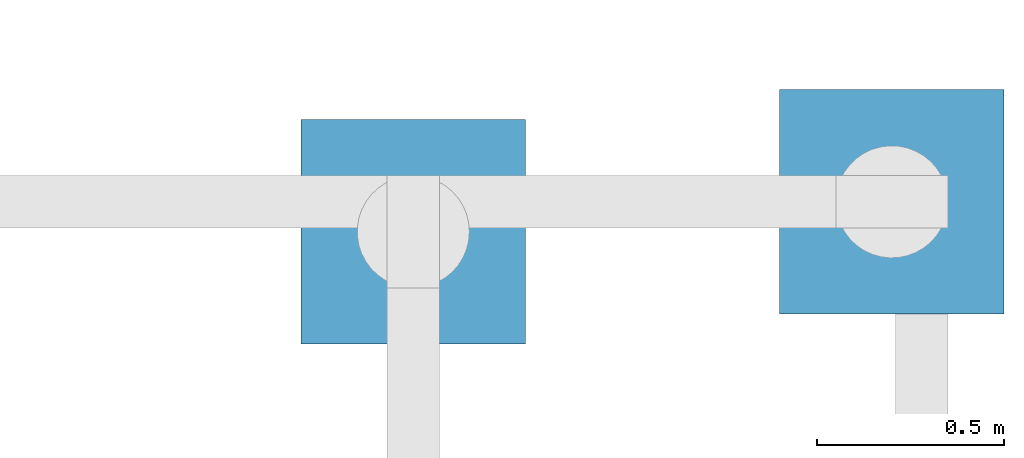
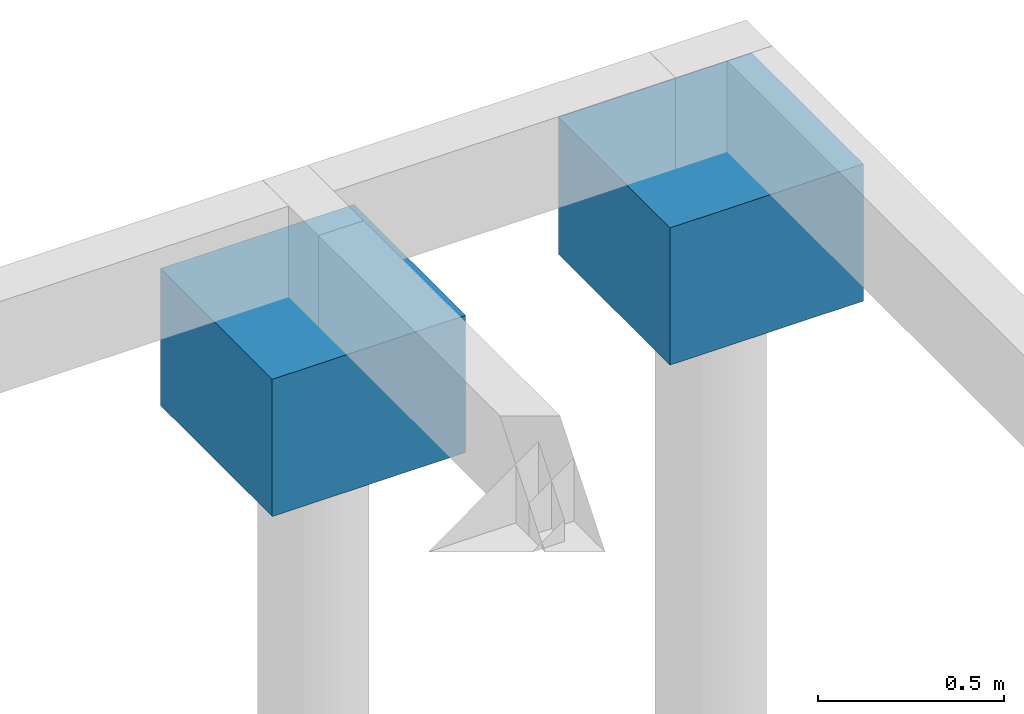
# One storey, part 6 of 6: 2 footings.
"""IFC4 building model written with IfcOpenShell, lengths in centimetres."""

from ifc_helpers import new_model, si_unit, derived_unit, frame, origin_with_axes, place, context, project, spatial, faceted_brep, material, element, save


model = new_model("IFC4")

# Units and contexts
model_context = context("Model", 3, precision=1e-05, world=origin_with_axes(), identifier="Body")
ifc_project = project(units=[si_unit("LENGTHUNIT", "METRE", prefix="CENTI"), si_unit("VOLUMEUNIT", "CUBIC_METRE"), si_unit("AREAUNIT", "SQUARE_METRE"), si_unit("POWERUNIT", "WATT"), si_unit("LUMINOUSFLUXUNIT", "LUMEN"), si_unit("ELECTRICCURRENTUNIT", "AMPERE"), si_unit("PRESSUREUNIT", "PASCAL", prefix="KILO"), si_unit("MASSUNIT", "GRAM", prefix="KILO"), si_unit("PLANEANGLEUNIT", "RADIAN"), derived_unit("VOLUMETRICFLOWRATEUNIT", [(si_unit("LENGTHUNIT", "METRE"), 3), (si_unit("TIMEUNIT", "SECOND"), -1)])], contexts=[model_context])

# Site, building, storey
site_placement = place(None, origin_with_axes())
site = spatial("IfcSite", under=ifc_project, at=site_placement)
building_placement = place(site_placement, frame((0.0, 0.0, -170.0)))
building = spatial("IfcBuilding", under=site, at=building_placement)
storey_placement = place(building_placement, origin_with_axes())
storey = spatial("IfcBuildingStorey", under=building, at=storey_placement, Name="Baldrame", CompositionType="ELEMENT", Elevation=-170.0)

# Footings
ifc_material = material(Name="Concreto")
footing_1_placement = place(storey_placement, frame((5815.12, 149.5, -30.0), z_axis=(0.0, 0.0, 1.0), x_axis=(1.0, 0.0, 0.0)))
element("IfcFooting", 1, at=footing_1_placement, inside=storey, material=ifc_material, Name="P76", context=model_context, shape_type="SolidModel", body=[
    faceted_brep([(30.0, 30.0, -45.0), (30.0, -30.0, -45.0), (-30.0, -30.0, -45.0), (-30.0, 30.0, -45.0), (-30.0, 30.0, 0.0), (-30.0, -30.0, 0.0), (30.0, -30.0, 0.0), (30.0, 30.0, 0.0)], [[[0, 1, 2, 3]], [[4, 5, 6, 7]], [[4, 3, 5]], [[3, 2, 5]], [[5, 2, 6]], [[2, 1, 6]], [[6, 1, 7]], [[1, 0, 7]], [[7, 0, 4]], [[0, 3, 4]]]),
])
footing_2_placement = place(storey_placement, frame((5943.12, 157.5, -30.0), z_axis=(0.0, 0.0, 1.0), x_axis=(1.0, 0.0, 0.0)))
element("IfcFooting", 2, at=footing_2_placement, inside=storey, material=ifc_material, Name="P77", context=model_context, shape_type="SolidModel", body=[
    faceted_brep([(30.0, -30.0, -45.0), (-30.0, -30.0, -45.0), (-30.0, 30.0, -45.0), (30.0, 30.0, -45.0), (30.0, 30.0, 0.0), (-30.0, 30.0, 0.0), (-30.0, -30.0, 0.0), (30.0, -30.0, 0.0)], [[[0, 1, 2, 3]], [[4, 5, 6, 7]], [[4, 3, 5]], [[3, 2, 5]], [[5, 2, 6]], [[2, 1, 6]], [[6, 1, 7]], [[1, 0, 7]], [[7, 0, 4]], [[0, 3, 4]]]),
])

save(model, "model.ifc")
